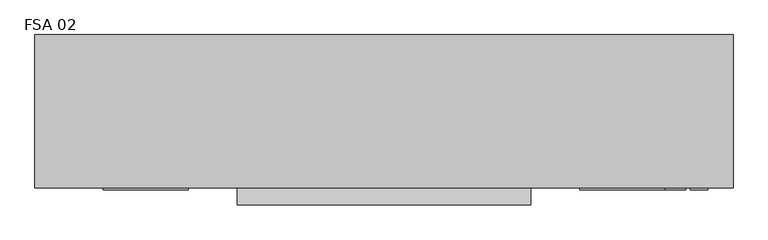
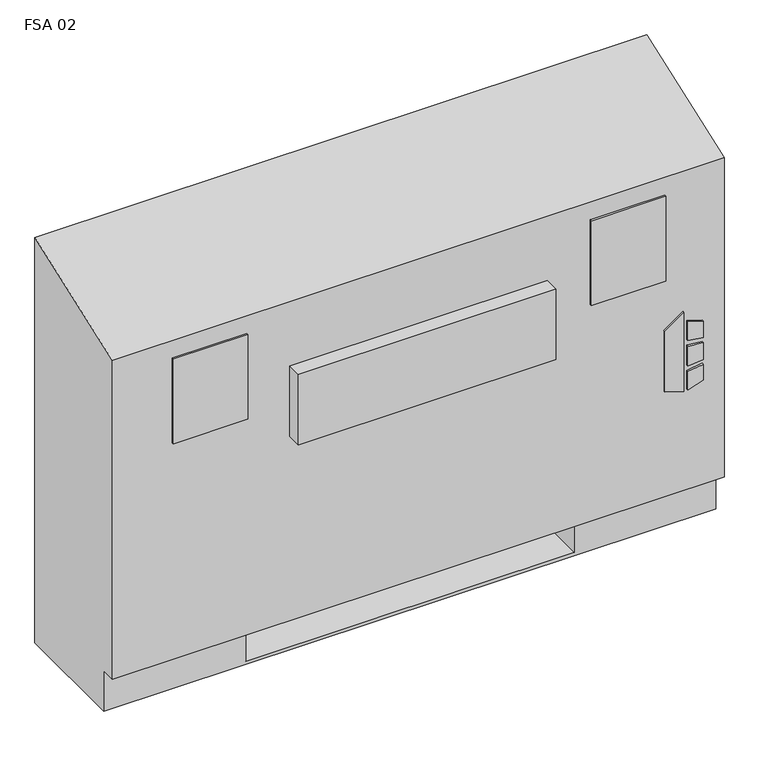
"""IFC4 building model written with IfcOpenShell, lengths in millimetres: proxy geometry, Vertical_Fan_Coil_Unit_-_FSA_-_IEC_-_4-Pipe_FS-FR_LH_2022 : FSA 02."""

from ifc_helpers import new_model, si_unit, point, frame, frame_2d, origin, place, context, project, spatial, polyline, circle_curve, trimmed, segment, composite_curve, outline, extrude, source, transform, mapped, element, save
from ifc_brep_helpers import plane_surface, revolved_surface, advanced_brep


def fsa_02_239d5f07(model_context):
    return source(origin(), model_context, "Body", "SolidModel", [
        extrude(outline(polyline([(263.9480703, 569.9868862), (254.0, 602.1602728), (396.1709244, 602.1602728), (373.1489183, 569.9868862), (263.9480703, 569.9868862)])), frame((0.0, 12.7, 0.0), z_axis=(0.0, 1.0, 0.0), x_axis=(0.0, 0.0, 1.0)), (0.0, 0.0, 1.0), 3.175),
        extrude(outline(polyline([(342.9473557, 608.9186058), (339.7449632, 635.0), (368.9738042, 635.0), (377.0382193, 608.9186058), (342.9473557, 608.9186058)])), frame((0.0, 12.7, 0.0), z_axis=(0.0, 1.0, 0.0), x_axis=(0.0, 0.0, 1.0)), (0.0, 0.0, 1.0), 3.175),
        extrude(outline(polyline([(291.0838288, 635.0), (287.4183279, 608.9186058), (254.0, 608.9186058), (262.6342372, 635.0), (291.0838288, 635.0)])), frame((0.0, 12.7, 0.0), z_axis=(0.0, 1.0, 0.0), x_axis=(0.0, 0.0, 1.0)), (0.0, 0.0, 1.0), 3.175),
        extrude(outline(polyline([(330.3989903, 635.0), (332.6808166, 608.9186058), (296.7432681, 608.9186058), (299.4845331, 635.0), (330.3989903, 635.0)])), frame((0.0, 12.7, 0.0), z_axis=(0.0, 1.0, 0.0), x_axis=(0.0, 0.0, 1.0)), (0.0, 0.0, 1.0), 3.175),
        extrude(outline(polyline([(552.45, 223.266), (552.45, 81.534), (431.8, 81.534), (431.8, 223.266), (552.45, 223.266)])), frame((0.0, 0.0, 327.025), z_axis=(0.0, 0.0, 1.0), x_axis=(1.0, 0.0, 0.0)), (0.0, 0.0, 1.0), 260.35),
        extrude(outline(polyline([(-139.7, 12.7), (-266.7, 12.7), (-266.7, 15.875), (-139.7, 15.875), (-139.7, 12.7)])), frame((0.0, 0.0, 463.55), z_axis=(0.0, 0.0, 1.0), x_axis=(1.0, 0.0, 0.0)), (0.0, 0.0, 1.0), 152.4),
        extrude(outline(polyline([(571.5, 12.7), (444.5, 12.7), (444.5, 15.875), (571.5, 15.875), (571.5, 12.7)])), frame((0.0, 0.0, 463.55), z_axis=(0.0, 0.0, 1.0), x_axis=(1.0, 0.0, 0.0)), (0.0, 0.0, 1.0), 152.4),
        extrude(outline(composite_curve([segment(trimmed(circle_curve(frame_2d((-190.5, 130.175)), 9.525), [point((-200.025, 130.175))], [point((-180.975, 130.175))], False, "CARTESIAN"), True, "CONTINUOUS"), segment(trimmed(circle_curve(frame_2d((-190.5, 130.175)), 9.525), [point((-180.975, 130.175))], [point((-200.025, 130.175))], False, "CARTESIAN"), True, "CONTINUOUS")], self_intersect=False)), frame((0.0, 0.0, 101.6), z_axis=(0.0, 0.0, 1.0), x_axis=(1.0, 0.0, 0.0)), (0.0, 0.0, 1.0), 25.4),
        extrude(outline(polyline([(-292.1, 63.5), (-292.1, 196.85), (-127.0, 196.85), (-127.0, 63.5), (-292.1, 63.5)])), frame((0.0, 0.0, 127.0), z_axis=(0.0, 0.0, 1.0), x_axis=(1.0, 0.0, 0.0)), (0.0, 0.0, 1.0), 50.8),
        extrude(outline(polyline([(371.475, -9.525), (-66.675, -9.525), (-66.675, 15.875), (371.475, 15.875), (371.475, -9.525)])), frame((0.0, 0.0, 405.1759245), z_axis=(0.0, 0.0, 1.0), x_axis=(1.0, 0.0, 0.0)), (0.0, 0.0, 1.0), 127.0),
        extrude(outline(composite_curve([segment(trimmed(circle_curve(frame_2d((117.475, 472.44)), 7.9375), [point((117.475, 480.3775))], [point((117.475, 464.5025))], False, "CARTESIAN"), True, "CONTINUOUS"), segment(trimmed(circle_curve(frame_2d((117.475, 472.44)), 7.9375), [point((117.475, 464.5025))], [point((117.475, 480.3775))], False, "CARTESIAN"), True, "CONTINUOUS")], self_intersect=False)), frame((-177.8, 0.0, 0.0), z_axis=(1.0, 0.0, 0.0), x_axis=(0.0, 1.0, 0.0)), (0.0, 0.0, 1.0), 50.8),
        extrude(outline(composite_curve([segment(trimmed(circle_curve(frame_2d((164.0586, 445.897)), 7.9375), [point((164.0586, 453.8345))], [point((164.0586, 437.9595))], False, "CARTESIAN"), True, "CONTINUOUS"), segment(trimmed(circle_curve(frame_2d((164.0586, 445.897)), 7.9375), [point((164.0586, 437.9595))], [point((164.0586, 453.8345))], False, "CARTESIAN"), True, "CONTINUOUS")], self_intersect=False)), frame((-177.8, 0.0, 0.0), z_axis=(1.0, 0.0, 0.0), x_axis=(0.0, 1.0, 0.0)), (0.0, 0.0, 1.0), 50.8),
        extrude(outline(composite_curve([segment(trimmed(circle_curve(frame_2d((53.975, 416.56)), 7.9502), [point((53.975, 424.5102))], [point((53.975, 408.6098))], False, "CARTESIAN"), True, "CONTINUOUS"), segment(trimmed(circle_curve(frame_2d((53.975, 416.56)), 7.9502), [point((53.975, 408.6098))], [point((53.975, 424.5102))], False, "CARTESIAN"), True, "CONTINUOUS")], self_intersect=False)), frame((-177.8, 0.0, 0.0), z_axis=(1.0, 0.0, 0.0), x_axis=(0.0, 1.0, 0.0)), (0.0, 0.0, 1.0), 50.8),
        extrude(outline(composite_curve([segment(trimmed(circle_curve(frame_2d((130.175, 554.99)), 7.9502), [point((130.175, 562.9402))], [point((130.175, 547.0398))], False, "CARTESIAN"), True, "CONTINUOUS"), segment(trimmed(circle_curve(frame_2d((130.175, 554.99)), 7.9502), [point((130.175, 547.0398))], [point((130.175, 562.9402))], False, "CARTESIAN"), True, "CONTINUOUS")], self_intersect=False)), frame((-177.8, 0.0, 0.0), z_axis=(1.0, 0.0, 0.0), x_axis=(0.0, 1.0, 0.0)), (0.0, 0.0, 1.0), 50.8),
        advanced_brep(
        [(-368.3, 244.475, 0.0), (673.1, 244.475, 0.0), (673.1, 41.275, 0.0), (-368.3, 41.275, 0.0), (-368.3, 244.475, 730.25), (673.1, 244.475, 730.25), (431.8, 244.475, 73.025), (660.4, 244.475, 73.025), (660.4, 244.475, 654.05), (431.8, 244.475, 654.05), (431.8, 244.475, 414.8650565), (460.375, 244.475, 414.8650565), (460.375, 244.475, 385.2349435), (431.8, 244.475, 385.2349435), (431.8, 244.475, 287.3375), (460.375, 244.475, 287.3375), (460.375, 244.475, 258.7625), (431.8, 244.475, 258.7625), (431.8, 244.475, 141.2875), (460.375, 244.475, 141.2875), (460.375, 244.475, 112.7125), (431.8, 244.475, 112.7125), (-127.0, 244.475, 654.05), (-355.6, 244.475, 654.05), (-355.6, 244.475, 73.025), (-127.0, 244.475, 73.025), (-127.0, 244.475, 112.7125), (-155.575, 244.475, 112.7125), (-155.575, 244.475, 141.2875), (-127.0, 244.475, 141.2875), (-127.0, 244.475, 258.7625), (-155.575, 244.475, 258.7625), (-155.575, 244.475, 287.3375), (-127.0, 244.475, 287.3375), (-127.0, 244.475, 385.2349435), (-155.575, 244.475, 385.2349435), (-155.575, 244.475, 414.8650565), (-127.0, 244.475, 414.8650565), (450.0626, 244.475, 127.0), (438.9374, 244.475, 127.0), (450.0626, 244.475, 400.05), (438.9374, 244.475, 400.05), (450.0626, 244.475, 273.05), (438.9374, 244.475, 273.05), (-134.1374, 244.475, 127.0), (-145.2626, 244.475, 127.0), (-134.1374, 244.475, 273.05), (-145.2626, 244.475, 273.05), (-134.1374, 244.475, 400.05), (-145.2626, 244.475, 400.05), (-368.3, 41.275, 73.025), (-368.3, 15.875, 73.025), (-368.3, 15.875, 647.7), (673.1, 15.875, 73.025), (673.1, 15.875, 647.7), (673.1, 41.275, 73.025), (-127.0, 41.275, 73.025), (-127.0, 225.425, 73.025), (431.8, 225.425, 73.025), (431.8, 41.275, 73.025), (431.8, 41.275, 6.35), (-127.0, 41.275, 6.35), (431.8, 41.275, 654.05), (660.4, 41.275, 654.05), (660.4, 41.275, 73.025), (431.8, 41.275, 73.025), (-127.0, 41.275, 654.05), (-127.0, 41.275, 73.025), (-355.6, 41.275, 73.025), (-355.6, 41.275, 654.05), (431.8, 225.425, 73.025), (431.8, 238.125, 112.7125), (431.8, 238.125, 141.2875), (431.8, 238.125, 258.7625), (431.8, 238.125, 287.3375), (431.8, 238.125, 385.2349435), (431.8, 238.125, 414.8650565), (-127.0, 225.425, 73.025), (-127.0, 238.125, 414.8650565), (-127.0, 238.125, 385.2349435), (-127.0, 238.125, 287.3375), (-127.0, 238.125, 258.7625), (-127.0, 238.125, 141.2875), (-127.0, 238.125, 112.7125), (-127.0, 225.425, 6.35), (431.8, 225.425, 6.35), (460.375, 238.125, 112.7125), (460.375, 238.125, 141.2875), (438.9374, 238.125, 127.0), (450.0626, 238.125, 127.0), (460.375, 238.125, 258.7625), (460.375, 238.125, 287.3375), (438.9374, 238.125, 273.05), (450.0626, 238.125, 273.05), (460.375, 238.125, 385.2349435), (460.375, 238.125, 414.8650565), (438.9374, 238.125, 400.05), (450.0626, 238.125, 400.05), (-155.575, 238.125, 141.2875), (-155.575, 238.125, 112.7125), (-145.2626, 238.125, 127.0), (-134.1374, 238.125, 127.0), (-155.575, 238.125, 287.3375), (-155.575, 238.125, 258.7625), (-145.2626, 238.125, 273.05), (-134.1374, 238.125, 273.05), (-155.575, 238.125, 414.8650565), (-155.575, 238.125, 385.2349435), (-145.2626, 238.125, 400.05), (-134.1374, 238.125, 400.05)],
        [
            (0, 1),
            (1, 2),
            (2, 3),
            (3, 0),
            (0, 4),
            (4, 5),
            (5, 1),
            (6, 7),
            (7, 8),
            (8, 9),
            (9, 10),
            (10, 11),
            (11, 12),
            (12, 13),
            (13, 14),
            (14, 15),
            (15, 16),
            (16, 17),
            (17, 18),
            (18, 19),
            (19, 20),
            (20, 21),
            (21, 6),
            (22, 23),
            (23, 24),
            (24, 25),
            (25, 26),
            (26, 27),
            (27, 28),
            (28, 29),
            (29, 30),
            (30, 31),
            (31, 32),
            (32, 33),
            (33, 34),
            (34, 35),
            (35, 36),
            (36, 37),
            (37, 22),
            (38, 39, circle_curve(frame((444.5, 244.475, 127.0), z_axis=(0.0, -1.0, 0.0), x_axis=(-1.0, 0.0, 0.0)), 5.5626)),
            (39, 38, circle_curve(frame((444.5, 244.475, 127.0), z_axis=(0.0, -1.0, 0.0), x_axis=(-1.0, 0.0, 0.0)), 5.5626)),
            (40, 41, circle_curve(frame((444.5, 244.475, 400.05), z_axis=(0.0, -1.0, 0.0), x_axis=(-1.0, 0.0, 0.0)), 5.5626)),
            (41, 40, circle_curve(frame((444.5, 244.475, 400.05), z_axis=(0.0, -1.0, 0.0), x_axis=(-1.0, 0.0, 0.0)), 5.5626)),
            (42, 43, circle_curve(frame((444.5, 244.475, 273.05), z_axis=(0.0, -1.0, 0.0), x_axis=(-1.0, 0.0, 0.0)), 5.5626)),
            (43, 42, circle_curve(frame((444.5, 244.475, 273.05), z_axis=(0.0, -1.0, 0.0), x_axis=(-1.0, 0.0, 0.0)), 5.5626)),
            (44, 45, circle_curve(frame((-139.7, 244.475, 127.0), z_axis=(0.0, -1.0, 0.0), x_axis=(-1.0, 0.0, 0.0)), 5.5626)),
            (45, 44, circle_curve(frame((-139.7, 244.475, 127.0), z_axis=(0.0, -1.0, 0.0), x_axis=(-1.0, 0.0, 0.0)), 5.5626)),
            (46, 47, circle_curve(frame((-139.7, 244.475, 273.05), z_axis=(0.0, -1.0, 0.0), x_axis=(-1.0, 0.0, 0.0)), 5.5626)),
            (47, 46, circle_curve(frame((-139.7, 244.475, 273.05), z_axis=(0.0, -1.0, 0.0), x_axis=(-1.0, 0.0, 0.0)), 5.5626)),
            (48, 49, circle_curve(frame((-139.7, 244.475, 400.05), z_axis=(0.0, -1.0, 0.0), x_axis=(-1.0, 0.0, 0.0)), 5.5626)),
            (49, 48, circle_curve(frame((-139.7, 244.475, 400.05), z_axis=(0.0, -1.0, 0.0), x_axis=(-1.0, 0.0, 0.0)), 5.5626)),
            (3, 50),
            (50, 51),
            (51, 52),
            (52, 4),
            (51, 53),
            (53, 54),
            (54, 52),
            (5, 54),
            (53, 55),
            (55, 2),
            (50, 56),
            (56, 57),
            (57, 58),
            (58, 59),
            (59, 55),
            (59, 60),
            (60, 61),
            (61, 56),
            (62, 63),
            (63, 64),
            (64, 65),
            (65, 62),
            (66, 67),
            (67, 68),
            (68, 69),
            (69, 66),
            (65, 70),
            (70, 6),
            (21, 71),
            (71, 72),
            (72, 18),
            (17, 73),
            (73, 74),
            (74, 14),
            (13, 75),
            (75, 76),
            (76, 10),
            (9, 62),
            (64, 7),
            (63, 8),
            (69, 23),
            (22, 66),
            (68, 24),
            (67, 77),
            (77, 25),
            (37, 78),
            (78, 79),
            (79, 34),
            (33, 80),
            (80, 81),
            (81, 30),
            (29, 82),
            (82, 83),
            (83, 26),
            (57, 84),
            (84, 85),
            (85, 58),
            (85, 60),
            (84, 61),
            (71, 86),
            (86, 87),
            (87, 72),
            (88, 89, circle_curve(frame((444.5, 238.125, 127.0), z_axis=(0.0, 1.0, 0.0), x_axis=(-1.0, 0.0, 0.0)), 5.5626)),
            (89, 88, circle_curve(frame((444.5, 238.125, 127.0), z_axis=(0.0, 1.0, 0.0), x_axis=(-1.0, 0.0, 0.0)), 5.5626)),
            (73, 90),
            (90, 91),
            (91, 74),
            (92, 93, circle_curve(frame((444.5, 238.125, 273.05), z_axis=(0.0, 1.0, 0.0), x_axis=(-1.0, 0.0, 0.0)), 5.5626)),
            (93, 92, circle_curve(frame((444.5, 238.125, 273.05), z_axis=(0.0, 1.0, 0.0), x_axis=(-1.0, 0.0, 0.0)), 5.5626)),
            (75, 94),
            (94, 95),
            (95, 76),
            (96, 97, circle_curve(frame((444.5, 238.125, 400.05), z_axis=(0.0, 1.0, 0.0), x_axis=(-1.0, 0.0, 0.0)), 5.5626)),
            (97, 96, circle_curve(frame((444.5, 238.125, 400.05), z_axis=(0.0, 1.0, 0.0), x_axis=(-1.0, 0.0, 0.0)), 5.5626)),
            (98, 99),
            (99, 83),
            (82, 98),
            (100, 101, circle_curve(frame((-139.7, 238.125, 127.0), z_axis=(0.0, 1.0, 0.0), x_axis=(-1.0, 0.0, 0.0)), 5.5626)),
            (101, 100, circle_curve(frame((-139.7, 238.125, 127.0), z_axis=(0.0, 1.0, 0.0), x_axis=(-1.0, 0.0, 0.0)), 5.5626)),
            (102, 103),
            (103, 81),
            (80, 102),
            (104, 105, circle_curve(frame((-139.7, 238.125, 273.05), z_axis=(0.0, 1.0, 0.0), x_axis=(-1.0, 0.0, 0.0)), 5.5626)),
            (105, 104, circle_curve(frame((-139.7, 238.125, 273.05), z_axis=(0.0, 1.0, 0.0), x_axis=(-1.0, 0.0, 0.0)), 5.5626)),
            (106, 107),
            (107, 79),
            (78, 106),
            (108, 109, circle_curve(frame((-139.7, 238.125, 400.05), z_axis=(0.0, 1.0, 0.0), x_axis=(-1.0, 0.0, 0.0)), 5.5626)),
            (109, 108, circle_curve(frame((-139.7, 238.125, 400.05), z_axis=(0.0, 1.0, 0.0), x_axis=(-1.0, 0.0, 0.0)), 5.5626)),
            (87, 19),
            (86, 20),
            (91, 15),
            (90, 16),
            (95, 11),
            (94, 12),
            (28, 98),
            (99, 27),
            (32, 102),
            (103, 31),
            (36, 106),
            (107, 35),
            (88, 39),
            (38, 89),
            (96, 41),
            (40, 97),
            (92, 43),
            (42, 93),
            (100, 45),
            (44, 101),
            (104, 47),
            (46, 105),
            (108, 49),
            (48, 109),
        ],
        [
            plane_surface(frame((-368.3, 244.475, 0.0), z_axis=(0.0, 0.0, -1.0), x_axis=(1.0, 0.0, 0.0))),
            plane_surface(frame((673.1, 244.475, 730.25), z_axis=(0.0, 1.0, 0.0), x_axis=(0.0, 0.0, -1.0))),
            plane_surface(frame((-368.3, 244.475, 730.25), z_axis=(-1.0, 0.0, 0.0), x_axis=(0.0, 0.0, -1.0))),
            plane_surface(frame((-368.3, 15.875, 730.25), z_axis=(0.0, -1.0, 0.0), x_axis=(0.0, 0.0, -1.0))),
            plane_surface(frame((673.1, 15.875, 730.25), z_axis=(1.0, 0.0, 0.0), x_axis=(0.0, 0.0, -1.0))),
            plane_surface(frame((-368.3, 15.875, 73.025), z_axis=(0.0, 0.0, -1.0), x_axis=(1.0, 0.0, 0.0))),
            plane_surface(frame((-368.3, 41.275, 73.025), z_axis=(0.0, -1.0, 0.0), x_axis=(1.0, 0.0, 0.0))),
            plane_surface(frame((431.8, 41.275, 654.05), z_axis=(0.0, 1.0, 0.0), x_axis=(0.0, 0.0, -1.0))),
            plane_surface(frame((431.8, 41.275, 654.05), z_axis=(1.0, 0.0, 0.0), x_axis=(0.0, 1.0, 0.0))),
            plane_surface(frame((431.8, 41.275, 73.025), z_axis=(0.0, 0.0, 1.0), x_axis=(0.0, 1.0, 0.0))),
            plane_surface(frame((660.4, 41.275, 73.025), z_axis=(-1.0, 0.0, 0.0), x_axis=(0.0, 1.0, 0.0))),
            plane_surface(frame((660.4, 41.275, 654.05), z_axis=(0.0, 0.0, -1.0), x_axis=(0.0, 1.0, 0.0))),
            plane_surface(frame((-127.0, 41.275, 654.05), z_axis=(0.0, 0.0, -1.0), x_axis=(0.0, 1.0, 0.0))),
            plane_surface(frame((-355.6, 41.275, 654.05), z_axis=(1.0, 0.0, 0.0), x_axis=(0.0, 1.0, 0.0))),
            plane_surface(frame((-355.6, 41.275, 73.025), z_axis=(0.0, 0.0, 1.0), x_axis=(0.0, 1.0, 0.0))),
            plane_surface(frame((-127.0, 41.275, 73.025), z_axis=(-1.0, 0.0, 0.0), x_axis=(0.0, 1.0, 0.0))),
            plane_surface(frame((431.8, 225.425, 73.025), z_axis=(0.0, -1.0, 0.0), x_axis=(0.0, 0.0, -1.0))),
            plane_surface(frame((431.8, 225.425, 73.025), z_axis=(-1.0, 0.0, 0.0), x_axis=(0.0, -1.0, 0.0))),
            plane_surface(frame((431.8, 225.425, 6.35), z_axis=(0.0, 0.0, 1.0), x_axis=(0.0, -1.0, 0.0))),
            plane_surface(frame((-127.0, 225.425, 6.35), z_axis=(1.0, 0.0, 0.0), x_axis=(0.0, -1.0, 0.0))),
            plane_surface(frame((460.375, 238.125, 141.2875), z_axis=(0.0, -1.0, 0.0), x_axis=(-1.0, 0.0, 0.0))),
            plane_surface(frame((431.8, 244.475, 141.2875), z_axis=(0.0, 0.0, 1.0), x_axis=(0.0, -1.0, 0.0))),
            plane_surface(frame((460.375, 244.475, 141.2875), z_axis=(1.0, 0.0, 0.0), x_axis=(0.0, -1.0, 0.0))),
            plane_surface(frame((460.375, 244.475, 112.7125), z_axis=(0.0, 0.0, -1.0), x_axis=(0.0, -1.0, 0.0))),
            plane_surface(frame((431.8, 244.475, 287.3375), z_axis=(0.0, 0.0, 1.0), x_axis=(0.0, -1.0, 0.0))),
            plane_surface(frame((460.375, 244.475, 287.3375), z_axis=(1.0, 0.0, 0.0), x_axis=(0.0, -1.0, 0.0))),
            plane_surface(frame((460.375, 244.475, 258.7625), z_axis=(0.0, 0.0, -1.0), x_axis=(0.0, -1.0, 0.0))),
            plane_surface(frame((431.8, 244.475, 414.8650565), z_axis=(0.0, 0.0, 1.0), x_axis=(0.0, -1.0, 0.0))),
            plane_surface(frame((460.375, 244.475, 414.8650565), z_axis=(1.0, 0.0, 0.0), x_axis=(0.0, -1.0, 0.0))),
            plane_surface(frame((460.375, 244.475, 385.2349435), z_axis=(0.0, 0.0, -1.0), x_axis=(0.0, -1.0, 0.0))),
            plane_surface(frame((-155.575, 244.475, 141.2875), z_axis=(0.0, 0.0, 1.0), x_axis=(0.0, -1.0, 0.0))),
            plane_surface(frame((-127.0, 244.475, 112.7125), z_axis=(0.0, 0.0, -1.0), x_axis=(0.0, -1.0, 0.0))),
            plane_surface(frame((-155.575, 244.475, 112.7125), z_axis=(-1.0, 0.0, 0.0), x_axis=(0.0, -1.0, 0.0))),
            plane_surface(frame((-155.575, 244.475, 287.3375), z_axis=(0.0, 0.0, 1.0), x_axis=(0.0, -1.0, 0.0))),
            plane_surface(frame((-127.0, 244.475, 258.7625), z_axis=(0.0, 0.0, -1.0), x_axis=(0.0, -1.0, 0.0))),
            plane_surface(frame((-155.575, 244.475, 258.7625), z_axis=(-1.0, 0.0, 0.0), x_axis=(0.0, -1.0, 0.0))),
            plane_surface(frame((-155.575, 244.475, 414.8650565), z_axis=(0.0, 0.0, 1.0), x_axis=(0.0, -1.0, 0.0))),
            plane_surface(frame((-127.0, 244.475, 385.2349435), z_axis=(0.0, 0.0, -1.0), x_axis=(0.0, -1.0, 0.0))),
            plane_surface(frame((-155.575, 244.475, 385.2349435), z_axis=(-1.0, 0.0, 0.0), x_axis=(0.0, -1.0, 0.0))),
            revolved_surface(polyline([(438.9374, 238.125, 127.0), (438.9374, 244.475, 127.0)]), (444.5, 244.475, 127.0), (0.0, -1.0, 0.0)),
            revolved_surface(polyline([(438.9374, 238.125, 400.05), (438.9374, 244.475, 400.05)]), (444.5, 244.475, 400.05), (0.0, -1.0, 0.0)),
            revolved_surface(polyline([(438.9374, 238.125, 273.05), (438.9374, 244.475, 273.05)]), (444.5, 244.475, 273.05), (0.0, -1.0, 0.0)),
            revolved_surface(polyline([(-145.2626, 238.125, 127.0), (-145.2626, 244.475, 127.0)]), (-139.7, 244.475, 127.0), (0.0, -1.0, 0.0)),
            revolved_surface(polyline([(-145.2626, 238.125, 273.05), (-145.2626, 244.475, 273.05)]), (-139.7, 244.475, 273.05), (0.0, -1.0, 0.0)),
            revolved_surface(polyline([(-145.2626, 238.125, 400.05), (-145.2626, 244.475, 400.05)]), (-139.7, 244.475, 400.05), (0.0, -1.0, 0.0)),
            plane_surface(frame((-368.3, 244.475, 730.25), z_axis=(0.0, -0.33964446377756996, 0.9405538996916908), x_axis=(1.0, 0.0, 0.0))),
        ],
        [
            (0, [[1, 2, 3, 4]]),
            (1, [[-1, 5, 6, 7], [8, 9, 10, 11, 12, 13, 14, 15, 16, 17, 18, 19, 20, 21, 22, 23], [24, 25, 26, 27, 28, 29, 30, 31, 32, 33, 34, 35, 36, 37, 38, 39], [40, 41], [42, 43], [44, 45], [46, 47], [48, 49], [50, 51]]),
            (2, [[-5, -4, 52, 53, 54, 55]]),
            (3, [[56, 57, 58, -54]]),
            (4, [[-7, 59, -57, 60, 61, -2]]),
            (5, [[-53, 62, 63, 64, 65, 66, -60, -56]]),
            (6, [[-3, -61, -66, 67, 68, 69, -62, -52]]),
            (7, [[70, 71, 72, 73]]),
            (7, [[74, 75, 76, 77]]),
            (8, [[-73, 78, 79, -23, 80, 81, 82, -19, 83, 84, 85, -15, 86, 87, 88, -11, 89]]),
            (9, [[-72, 90, -8, -79, -78]]),
            (10, [[-71, 91, -9, -90]]),
            (11, [[-70, -89, -10, -91]]),
            (12, [[-77, 92, -24, 93]]),
            (13, [[-76, 94, -25, -92]]),
            (14, [[-75, 95, 96, -26, -94]]),
            (15, [[-74, -93, -39, 97, 98, 99, -35, 100, 101, 102, -31, 103, 104, 105, -27, -96, -95]]),
            (16, [[-64, 106, 107, 108]]),
            (17, [[-108, 109, -67, -65]]),
            (18, [[-107, 110, -68, -109]]),
            (19, [[-106, -63, -69, -110]]),
            (20, [[111, 112, 113, -81], [114, 115]]),
            (20, [[116, 117, 118, -84], [119, 120]]),
            (20, [[121, 122, 123, -87], [124, 125]]),
            (20, [[126, 127, -104, 128], [129, 130]]),
            (20, [[131, 132, -101, 133], [134, 135]]),
            (20, [[136, 137, -98, 138], [139, 140]]),
            (21, [[-113, 141, -20, -82]]),
            (22, [[-112, 142, -21, -141]]),
            (23, [[-111, -80, -22, -142]]),
            (24, [[-118, 143, -16, -85]]),
            (25, [[-117, 144, -17, -143]]),
            (26, [[-116, -83, -18, -144]]),
            (27, [[-123, 145, -12, -88]]),
            (28, [[-122, 146, -13, -145]]),
            (29, [[-121, -86, -14, -146]]),
            (30, [[-128, -103, -30, 147]]),
            (31, [[-127, 148, -28, -105]]),
            (32, [[-126, -147, -29, -148]]),
            (33, [[-133, -100, -34, 149]]),
            (34, [[-132, 150, -32, -102]]),
            (35, [[-131, -149, -33, -150]]),
            (36, [[-138, -97, -38, 151]]),
            (37, [[-137, 152, -36, -99]]),
            (38, [[-136, -151, -37, -152]]),
            (39, [[153, -40, 154, -114]]),
            (39, [[-153, -115, -154, -41]]),
            (40, [[155, -42, 156, -124]]),
            (40, [[-155, -125, -156, -43]]),
            (41, [[157, -44, 158, -119]]),
            (41, [[-157, -120, -158, -45]]),
            (42, [[159, -46, 160, -129]]),
            (42, [[-159, -130, -160, -47]]),
            (43, [[161, -48, 162, -134]]),
            (43, [[-161, -135, -162, -49]]),
            (44, [[163, -50, 164, -139]]),
            (44, [[-163, -140, -164, -51]]),
            (45, [[-6, -55, -58, -59]]),
        ],
    ),
    ])


if __name__ == "__main__":
    model = new_model("IFC4")
    model_context = context("Model", 3, world=origin())
    ifc_project = project(units=[si_unit("LENGTHUNIT", "METRE", prefix="MILLI")], contexts=[model_context])
    site = spatial("IfcSite", under=ifc_project)
    building = spatial("IfcBuilding", under=site)
    placement = place(None, origin())
    fsa_02_shape = fsa_02_239d5f07(model_context)
    element("IfcBuildingElementProxy", 1, Name="Vertical_Fan_Coil_Unit_-_FSA_-_IEC_-_4-Pipe_FS-FR_LH_2022 : FSA 02", ObjectType="Vertical_Fan_Coil_Unit_-_FSA_-_IEC_-_4-Pipe_FS-FR_LH_2022 : FSA 02", at=placement, inside=building, context=model_context, shape_type="MappedRepresentation", body=[
        mapped(fsa_02_shape, transform((0.0, 0.0, 0.0), x_axis=(1.0, 0.0, 0.0), y_axis=(0.0, 1.0, 0.0), z_axis=(0.0, 0.0, 1.0))),
    ])
    save(model, "model.ifc")
